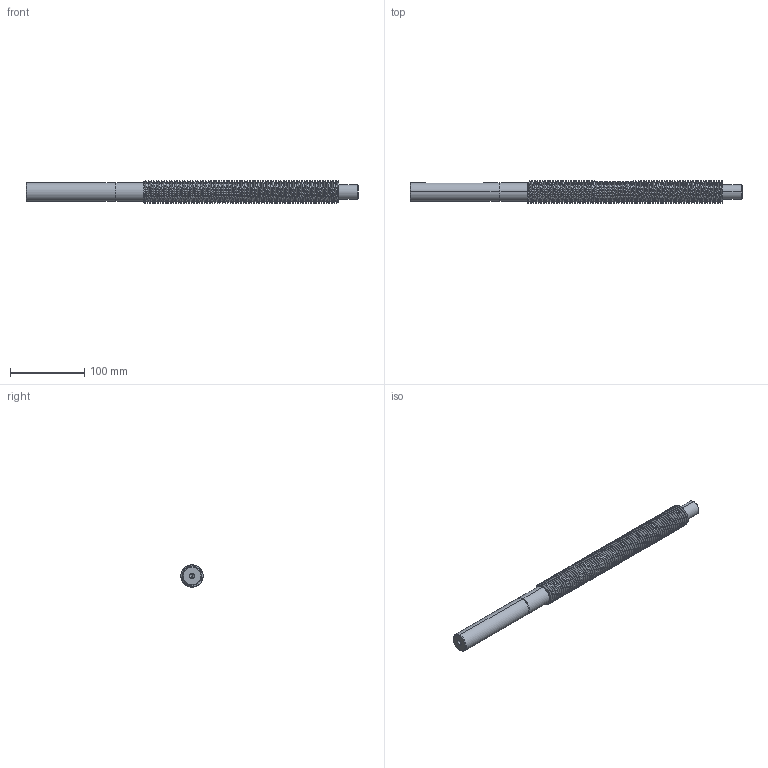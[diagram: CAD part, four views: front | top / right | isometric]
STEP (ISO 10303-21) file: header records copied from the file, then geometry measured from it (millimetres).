
FILE_DESCRIPTION (( 'STEP AP203' ), '1' );
FILE_NAME ('084.812.023.STEP', '2018-03-12T08:11:20', ( '' ), ( '' ), 'SwSTEP 2.0', 'SolidWorks 2016', '' );
FILE_SCHEMA (( 'CONFIG_CONTROL_DESIGN' ));
Products named in the file (1): 084.812.023
Bounding box: 447.5 x 29.95 x 29.95 mm (x, y, z)
Volume: 246278.3 mm3; surface area: 52674.6 mm2
Topology: 1 solids, 1 shells, 244 faces, 705 edges, 467 vertices
Faces by surface type: cylinder 180, bspline 46, plane 12, cone 6
Entity records: 96222 total; most frequent: CARTESIAN_POINT 91254, ORIENTED_EDGE 1406, EDGE_CURVE 703, DIRECTION 641, VERTEX_POINT 467, EDGE_LOOP 250, FACE_OUTER_BOUND 244, ADVANCED_FACE 244
